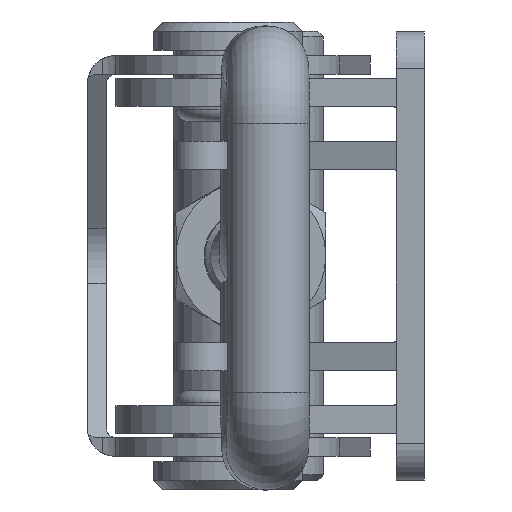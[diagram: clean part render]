
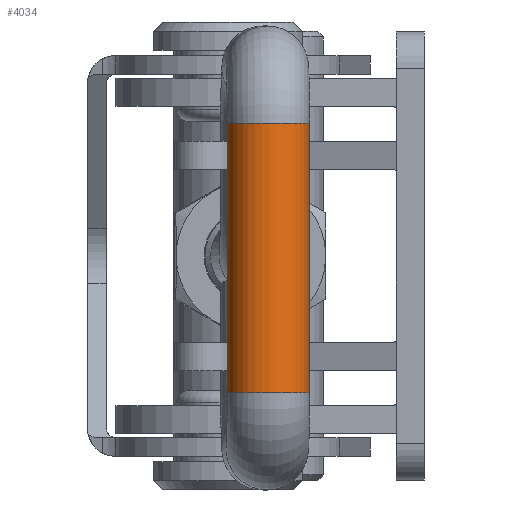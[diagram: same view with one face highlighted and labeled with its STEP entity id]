
A CAD part, left-side view. The second image highlights one B-rep face of the part: STEP entity #4034.
In plain terms, the highlighted cylindrical face has radius 2.2 mm (diameter 4.4 mm), a full revolution.
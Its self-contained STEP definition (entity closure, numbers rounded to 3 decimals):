
#305=CIRCLE('',#4410,2.2);
#306=CIRCLE('',#4412,2.2);
#868=ORIENTED_EDGE('',*,*,#1808,.F.);
#869=ORIENTED_EDGE('',*,*,#1807,.T.);
#1807=EDGE_CURVE('',#2316,#2316,#305,.T.);
#1808=EDGE_CURVE('',#2317,#2317,#306,.T.);
#2316=VERTEX_POINT('',#6541);
#2317=VERTEX_POINT('',#6544);
#3287=EDGE_LOOP('',(#868));
#3288=EDGE_LOOP('',(#869));
#3625=FACE_BOUND('',#3287,.T.);
#3626=FACE_BOUND('',#3288,.T.);
#3867=CYLINDRICAL_SURFACE('',#4411,2.2);
#4034=ADVANCED_FACE('',(#3625,#3626),#3867,.T.);
#4410=AXIS2_PLACEMENT_3D('',#6540,#5153,#5154);
#4411=AXIS2_PLACEMENT_3D('',#6542,#5155,#5156);
#4412=AXIS2_PLACEMENT_3D('',#6543,#5157,#5158);
#5153=DIRECTION('',(0.,0.,1.));
#5154=DIRECTION('',(1.,0.,0.));
#5155=DIRECTION('',(0.,0.,-1.));
#5156=DIRECTION('',(-1.,0.,0.));
#5157=DIRECTION('',(0.,0.,1.));
#5158=DIRECTION('',(1.,0.,0.));
#6540=CARTESIAN_POINT('',(-51.014,0.,-7.087));
#6541=CARTESIAN_POINT('',(-48.814,0.,-7.087));
#6542=CARTESIAN_POINT('',(-51.014,0.,7.303));
#6543=CARTESIAN_POINT('',(-51.014,0.,7.303));
#6544=CARTESIAN_POINT('',(-48.814,0.,7.303));
